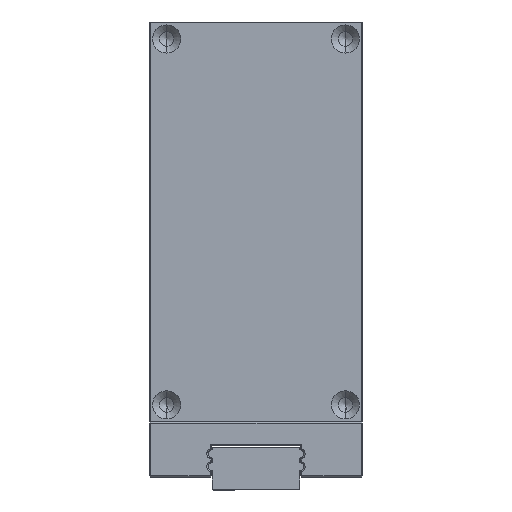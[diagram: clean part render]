
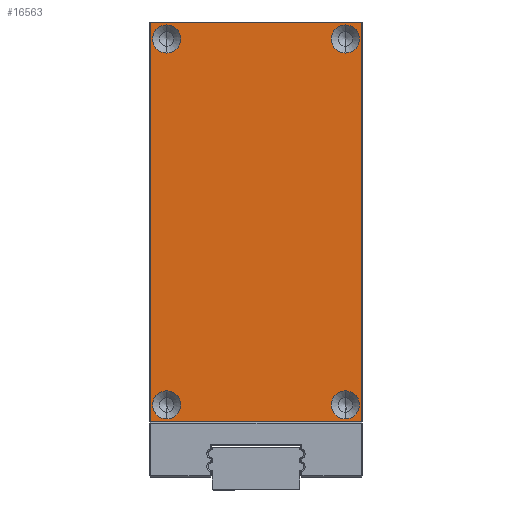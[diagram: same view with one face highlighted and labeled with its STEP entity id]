
A CAD part, left-side view. The second image highlights one B-rep face of the part: STEP entity #16563.
In plain terms, the highlighted planar face has unit normal (-1, 0, 0).
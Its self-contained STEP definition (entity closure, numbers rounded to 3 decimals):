
#78 = VECTOR ( 'NONE', #16402, 1000. ) ;
#317 = EDGE_LOOP ( 'NONE', ( #7129, #14019, #10746, #15183 ) ) ;
#323 = AXIS2_PLACEMENT_3D ( 'NONE', #14249, #2612, #6496 ) ;
#437 = AXIS2_PLACEMENT_3D ( 'NONE', #12023, #3143, #4256 ) ;
#666 = DIRECTION ( 'NONE',  ( 0., 0., 1. ) ) ;
#768 = FACE_BOUND ( 'NONE', #11355, .T. ) ;
#942 = CARTESIAN_POINT ( 'NONE',  ( -75., 24.8, 47. ) ) ;
#1118 = AXIS2_PLACEMENT_3D ( 'NONE', #8607, #1942, #666 ) ;
#1190 = DIRECTION ( 'NONE',  ( 0., -1., 0. ) ) ;
#1276 = DIRECTION ( 'NONE',  ( 0., 0., 1. ) ) ;
#1402 = CIRCLE ( 'NONE', #323, 3.3 ) ;
#1708 = VECTOR ( 'NONE', #5205, 1000. ) ;
#1745 = CARTESIAN_POINT ( 'NONE',  ( -75., -21., 43. ) ) ;
#1764 = EDGE_LOOP ( 'NONE', ( #5397, #10390 ) ) ;
#1942 = DIRECTION ( 'NONE',  ( -1., 0., 0. ) ) ;
#1970 = AXIS2_PLACEMENT_3D ( 'NONE', #5517, #14841, #14560 ) ;
#2002 = CIRCLE ( 'NONE', #3856, 3.3 ) ;
#2182 = VERTEX_POINT ( 'NONE', #10843 ) ;
#2226 = FACE_BOUND ( 'NONE', #1764, .T. ) ;
#2329 = LINE ( 'NONE', #11570, #1708 ) ;
#2360 = EDGE_LOOP ( 'NONE', ( #16789, #8693 ) ) ;
#2491 = EDGE_CURVE ( 'NONE', #13019, #15023, #8495, .T. ) ;
#2560 = EDGE_CURVE ( 'NONE', #15023, #13019, #1402, .T. ) ;
#2612 = DIRECTION ( 'NONE',  ( -1., 0., 0. ) ) ;
#2765 = CARTESIAN_POINT ( 'NONE',  ( -75., 25., -47. ) ) ;
#3074 = DIRECTION ( 'NONE',  ( 0., 0., 1. ) ) ;
#3143 = DIRECTION ( 'NONE',  ( -1., 0., 0. ) ) ;
#3197 = CARTESIAN_POINT ( 'NONE',  ( -75., 21., -46.3 ) ) ;
#3234 = EDGE_CURVE ( 'NONE', #13040, #4784, #12570, .T. ) ;
#3795 = CARTESIAN_POINT ( 'NONE',  ( -75., -21., -43. ) ) ;
#3814 = CIRCLE ( 'NONE', #1118, 3.3 ) ;
#3856 = AXIS2_PLACEMENT_3D ( 'NONE', #1745, #5443, #3074 ) ;
#4100 = ORIENTED_EDGE ( 'NONE', *, *, #2491, .F. ) ;
#4256 = DIRECTION ( 'NONE',  ( 0., 0., 1. ) ) ;
#4503 = AXIS2_PLACEMENT_3D ( 'NONE', #12166, #11043, #5821 ) ;
#4639 = EDGE_CURVE ( 'NONE', #14154, #7135, #3814, .T. ) ;
#4686 = VERTEX_POINT ( 'NONE', #8895 ) ;
#4775 = CIRCLE ( 'NONE', #8029, 3.3 ) ;
#4784 = VERTEX_POINT ( 'NONE', #15314 ) ;
#4858 = CARTESIAN_POINT ( 'NONE',  ( -75., 21., 43. ) ) ;
#4869 = DIRECTION ( 'NONE',  ( 0., 0., 1. ) ) ;
#5194 = CARTESIAN_POINT ( 'NONE',  ( -75., -21., -46.3 ) ) ;
#5205 = DIRECTION ( 'NONE',  ( 0., 0., 1. ) ) ;
#5397 = ORIENTED_EDGE ( 'NONE', *, *, #11697, .F. ) ;
#5443 = DIRECTION ( 'NONE',  ( -1., 0., 0. ) ) ;
#5517 = CARTESIAN_POINT ( 'NONE',  ( -75., 25., 47. ) ) ;
#5821 = DIRECTION ( 'NONE',  ( 0., 0., 1. ) ) ;
#6205 = CARTESIAN_POINT ( 'NONE',  ( -75., 25., 46.8 ) ) ;
#6250 = DIRECTION ( 'NONE',  ( 0., 0., 1. ) ) ;
#6478 = LINE ( 'NONE', #2765, #7676 ) ;
#6496 = DIRECTION ( 'NONE',  ( 0., 0., 1. ) ) ;
#6658 = VERTEX_POINT ( 'NONE', #12569 ) ;
#7067 = VECTOR ( 'NONE', #16602, 1000. ) ;
#7129 = ORIENTED_EDGE ( 'NONE', *, *, #10745, .T. ) ;
#7135 = VERTEX_POINT ( 'NONE', #12326 ) ;
#7199 = EDGE_CURVE ( 'NONE', #6658, #4686, #14897, .T. ) ;
#7392 = DIRECTION ( 'NONE',  ( -1., 0., 0. ) ) ;
#7478 = DIRECTION ( 'NONE',  ( -1., 0., 0. ) ) ;
#7585 = AXIS2_PLACEMENT_3D ( 'NONE', #3795, #15403, #1276 ) ;
#7676 = VECTOR ( 'NONE', #1190, 1000. ) ;
#7702 = CARTESIAN_POINT ( 'NONE',  ( -75., -21., 46.3 ) ) ;
#7821 = CARTESIAN_POINT ( 'NONE',  ( -75., -21., -39.7 ) ) ;
#7874 = FACE_BOUND ( 'NONE', #2360, .T. ) ;
#8029 = AXIS2_PLACEMENT_3D ( 'NONE', #15163, #7392, #4869 ) ;
#8083 = EDGE_CURVE ( 'NONE', #15411, #12646, #4775, .T. ) ;
#8495 = CIRCLE ( 'NONE', #7585, 3.3 ) ;
#8607 = CARTESIAN_POINT ( 'NONE',  ( -75., 21., -43. ) ) ;
#8693 = ORIENTED_EDGE ( 'NONE', *, *, #11493, .F. ) ;
#8895 = CARTESIAN_POINT ( 'NONE',  ( -75., 24.8, 46.8 ) ) ;
#9880 = EDGE_LOOP ( 'NONE', ( #14933, #14271 ) ) ;
#10139 = CIRCLE ( 'NONE', #15522, 3.3 ) ;
#10390 = ORIENTED_EDGE ( 'NONE', *, *, #4639, .F. ) ;
#10580 = VERTEX_POINT ( 'NONE', #16676 ) ;
#10745 = EDGE_CURVE ( 'NONE', #10580, #2182, #6478, .T. ) ;
#10746 = ORIENTED_EDGE ( 'NONE', *, *, #7199, .T. ) ;
#10843 = CARTESIAN_POINT ( 'NONE',  ( -75., -24.8, -47. ) ) ;
#11043 = DIRECTION ( 'NONE',  ( -1., 0., 0. ) ) ;
#11123 = CIRCLE ( 'NONE', #4503, 3.3 ) ;
#11245 = EDGE_CURVE ( 'NONE', #4686, #10580, #16612, .T. ) ;
#11355 = EDGE_LOOP ( 'NONE', ( #4100, #14799 ) ) ;
#11493 = EDGE_CURVE ( 'NONE', #4784, #13040, #2002, .T. ) ;
#11570 = CARTESIAN_POINT ( 'NONE',  ( -75., -24.8, 47. ) ) ;
#11697 = EDGE_CURVE ( 'NONE', #7135, #14154, #11123, .T. ) ;
#11745 = FACE_OUTER_BOUND ( 'NONE', #317, .T. ) ;
#12023 = CARTESIAN_POINT ( 'NONE',  ( -75., -21., 43. ) ) ;
#12166 = CARTESIAN_POINT ( 'NONE',  ( -75., 21., -43. ) ) ;
#12303 = PLANE ( 'NONE',  #1970 ) ;
#12326 = CARTESIAN_POINT ( 'NONE',  ( -75., 21., -39.7 ) ) ;
#12569 = CARTESIAN_POINT ( 'NONE',  ( -75., -24.8, 46.8 ) ) ;
#12570 = CIRCLE ( 'NONE', #437, 3.3 ) ;
#12646 = VERTEX_POINT ( 'NONE', #13098 ) ;
#13019 = VERTEX_POINT ( 'NONE', #7821 ) ;
#13040 = VERTEX_POINT ( 'NONE', #7702 ) ;
#13098 = CARTESIAN_POINT ( 'NONE',  ( -75., 21., 46.3 ) ) ;
#13125 = EDGE_CURVE ( 'NONE', #2182, #6658, #2329, .T. ) ;
#13985 = CARTESIAN_POINT ( 'NONE',  ( -75., 21., 39.7 ) ) ;
#14019 = ORIENTED_EDGE ( 'NONE', *, *, #13125, .T. ) ;
#14154 = VERTEX_POINT ( 'NONE', #3197 ) ;
#14249 = CARTESIAN_POINT ( 'NONE',  ( -75., -21., -43. ) ) ;
#14271 = ORIENTED_EDGE ( 'NONE', *, *, #8083, .F. ) ;
#14560 = DIRECTION ( 'NONE',  ( 0., 0., -1. ) ) ;
#14583 = FACE_BOUND ( 'NONE', #9880, .T. ) ;
#14799 = ORIENTED_EDGE ( 'NONE', *, *, #2560, .F. ) ;
#14841 = DIRECTION ( 'NONE',  ( 1., 0., 0. ) ) ;
#14897 = LINE ( 'NONE', #6205, #78 ) ;
#14926 = EDGE_CURVE ( 'NONE', #12646, #15411, #10139, .T. ) ;
#14933 = ORIENTED_EDGE ( 'NONE', *, *, #14926, .F. ) ;
#15023 = VERTEX_POINT ( 'NONE', #5194 ) ;
#15163 = CARTESIAN_POINT ( 'NONE',  ( -75., 21., 43. ) ) ;
#15183 = ORIENTED_EDGE ( 'NONE', *, *, #11245, .T. ) ;
#15314 = CARTESIAN_POINT ( 'NONE',  ( -75., -21., 39.7 ) ) ;
#15403 = DIRECTION ( 'NONE',  ( -1., 0., 0. ) ) ;
#15411 = VERTEX_POINT ( 'NONE', #13985 ) ;
#15522 = AXIS2_PLACEMENT_3D ( 'NONE', #4858, #7478, #6250 ) ;
#16402 = DIRECTION ( 'NONE',  ( 0., 1., 0. ) ) ;
#16563 = ADVANCED_FACE ( 'NONE', ( #2226, #14583, #768, #7874, #11745 ), #12303, .F. ) ;
#16602 = DIRECTION ( 'NONE',  ( 0., 0., -1. ) ) ;
#16612 = LINE ( 'NONE', #942, #7067 ) ;
#16676 = CARTESIAN_POINT ( 'NONE',  ( -75., 24.8, -47. ) ) ;
#16789 = ORIENTED_EDGE ( 'NONE', *, *, #3234, .F. ) ;
